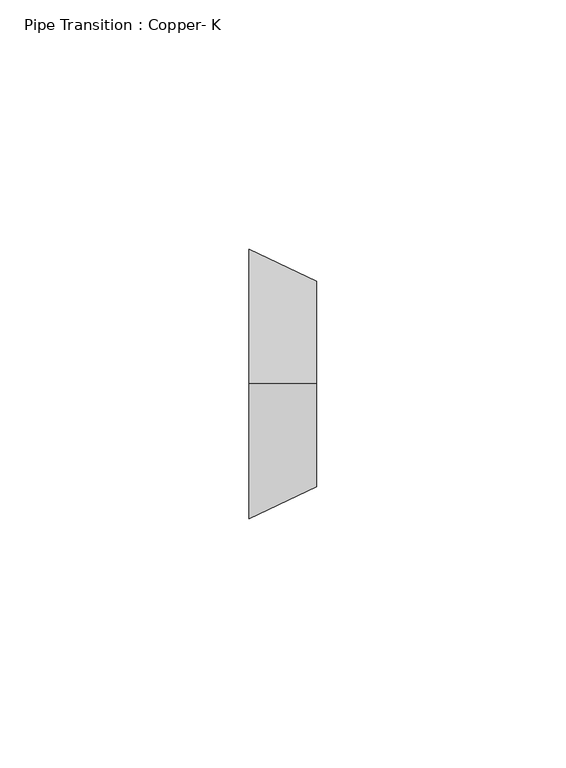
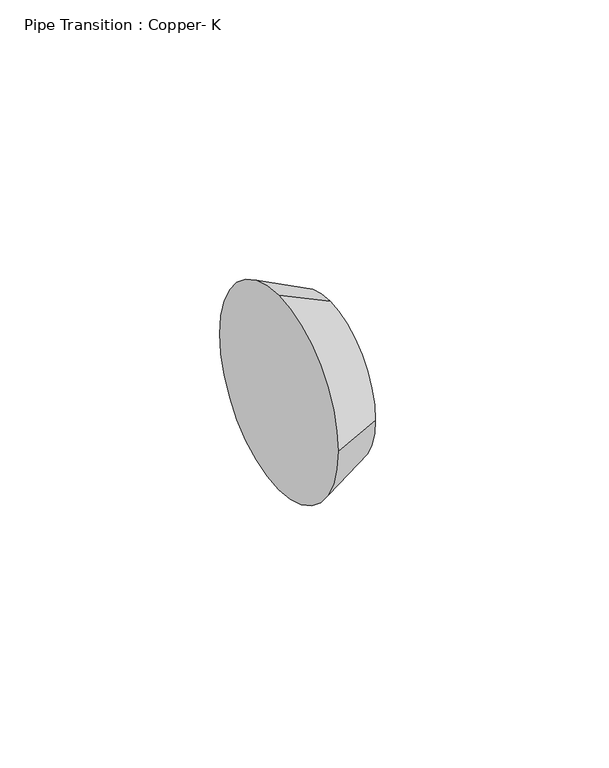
"""IFC4 building model written with IfcOpenShell, lengths in millimetres: pipe fitting geometry, Pipe Transition : Copper- K."""

from ifc_helpers import new_model, si_unit, frame, origin, place, context, project, spatial, circle_curve, source, transform, mapped, element, save
from ifc_brep_helpers import plane_surface, spline_surface, advanced_brep


def pipe_transition_copper_k_ab260ade(model_context):
    return source(origin(), model_context, "Body", "AdvancedBrep", [
        advanced_brep(
        [(13.49375, 0.0, 20.700539), (13.49375, -20.6375, 0.063039), (13.49375, 0.0, -20.574461), (13.49375, 20.6375, 0.063039), (0.0, 0.0, 26.9875), (0.0, 26.9875, 0.0), (0.0, 0.0, -26.9875), (0.0, -26.9875, 0.0)],
        [
            (0, 1, circle_curve(frame((13.49375, 0.0, 0.063039), z_axis=(1.0, 0.0, 0.0), x_axis=(0.0, 1.0, 0.0)), 20.6375)),
            (1, 2, circle_curve(frame((13.49375, 0.0, 0.063039), z_axis=(1.0, 0.0, 0.0), x_axis=(0.0, 1.0, 0.0)), 20.6375)),
            (2, 3, circle_curve(frame((13.49375, 0.0, 0.063039), z_axis=(1.0, 0.0, 0.0), x_axis=(0.0, 1.0, 0.0)), 20.6375)),
            (3, 0, circle_curve(frame((13.49375, 0.0, 0.063039), z_axis=(1.0, 0.0, 0.0), x_axis=(0.0, 1.0, 0.0)), 20.6375)),
            (4, 5, circle_curve(frame((0.0, 0.0, 0.0), z_axis=(-1.0, 0.0, 0.0), x_axis=(0.0, 1.0, 0.0)), 26.9875)),
            (5, 6, circle_curve(frame((0.0, 0.0, 0.0), z_axis=(-1.0, 0.0, 0.0), x_axis=(0.0, 1.0, 0.0)), 26.9875)),
            (6, 7, circle_curve(frame((0.0, 0.0, 0.0), z_axis=(-1.0, 0.0, 0.0), x_axis=(0.0, 1.0, 0.0)), 26.9875)),
            (7, 4, circle_curve(frame((0.0, 0.0, 0.0), z_axis=(-1.0, 0.0, 0.0), x_axis=(0.0, 1.0, 0.0)), 26.9875)),
            (7, 1),
            (0, 4),
            (6, 2),
            (5, 3),
        ],
        [
            plane_surface(frame((13.49375, 0.0, 0.063039), z_axis=(1.0, 0.0, 0.0), x_axis=(0.0, -1.0, 0.0))),
            plane_surface(frame((0.0, 0.0, 0.0), z_axis=(-1.0, 0.0, 0.0), x_axis=(0.0, -1.0, 0.0))),
            spline_surface(2, 1, [[(0.0, 0.0, 26.9875), (13.49375, 0.0, 20.700539)], [(0.0, -26.9875, 26.9875), (13.49375, -20.6375, 20.700539)], [(0.0, -26.9875, 0.0), (13.49375, -20.6375, 0.063039)]], [3, 3], [2, 2], [0.0, 1.0], [0.0, 1.0], weights=[[1.0, 1.0], [0.7071067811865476, 0.7071067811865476], [1.0, 1.0]]),
            spline_surface(2, 1, [[(0.0, -26.9875, 0.0), (13.49375, -20.6375, 0.063039)], [(0.0, -26.9875, -26.9875), (13.49375, -20.6375, -20.574461)], [(0.0, 0.0, -26.9875), (13.49375, 0.0, -20.574461)]], [3, 3], [2, 2], [0.0, 1.0], [0.0, 1.0], weights=[[1.0, 1.0], [0.7071067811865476, 0.7071067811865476], [1.0, 1.0]]),
            spline_surface(2, 1, [[(0.0, 0.0, -26.9875), (13.49375, 0.0, -20.574461)], [(0.0, 26.9875, -26.9875), (13.49375, 20.6375, -20.574461)], [(0.0, 26.9875, 0.0), (13.49375, 20.6375, 0.063039)]], [3, 3], [2, 2], [0.0, 1.0], [0.0, 1.0], weights=[[1.0, 1.0], [0.7071067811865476, 0.7071067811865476], [1.0, 1.0]]),
            spline_surface(2, 1, [[(0.0, 26.9875, 0.0), (13.49375, 20.6375, 0.063039)], [(0.0, 26.9875, 26.9875), (13.49375, 20.6375, 20.700539)], [(0.0, 0.0, 26.9875), (13.49375, 0.0, 20.700539)]], [3, 3], [2, 2], [0.0, 1.0], [0.0, 1.0], weights=[[1.0, 1.0], [0.7071067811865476, 0.7071067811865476], [1.0, 1.0]]),
        ],
        [
            (0, [[1, 2, 3, 4]]),
            (1, [[5, 6, 7, 8]]),
            (2, [[-8, 9, -1, 10]]),
            (3, [[-7, 11, -2, -9]]),
            (4, [[-6, 12, -3, -11]]),
            (5, [[-5, -10, -4, -12]]),
        ],
    ),
        advanced_brep(
        [(13.49375, 0.0, 20.700539), (13.49375, -20.6375, 0.063039), (13.49375, 0.0, -20.574461), (13.49375, 20.6375, 0.063039), (0.0, 0.0, 26.9875), (0.0, 26.9875, 0.0), (0.0, 0.0, -26.9875), (0.0, -26.9875, 0.0)],
        [
            (0, 1, circle_curve(frame((13.49375, 0.0, 0.063039), z_axis=(1.0, 0.0, 0.0), x_axis=(0.0, 1.0, 0.0)), 20.6375)),
            (1, 2, circle_curve(frame((13.49375, 0.0, 0.063039), z_axis=(1.0, 0.0, 0.0), x_axis=(0.0, 1.0, 0.0)), 20.6375)),
            (2, 3, circle_curve(frame((13.49375, 0.0, 0.063039), z_axis=(1.0, 0.0, 0.0), x_axis=(0.0, 1.0, 0.0)), 20.6375)),
            (3, 0, circle_curve(frame((13.49375, 0.0, 0.063039), z_axis=(1.0, 0.0, 0.0), x_axis=(0.0, 1.0, 0.0)), 20.6375)),
            (4, 5, circle_curve(frame((0.0, 0.0, 0.0), z_axis=(-1.0, 0.0, 0.0), x_axis=(0.0, 1.0, 0.0)), 26.9875)),
            (5, 6, circle_curve(frame((0.0, 0.0, 0.0), z_axis=(-1.0, 0.0, 0.0), x_axis=(0.0, 1.0, 0.0)), 26.9875)),
            (6, 7, circle_curve(frame((0.0, 0.0, 0.0), z_axis=(-1.0, 0.0, 0.0), x_axis=(0.0, 1.0, 0.0)), 26.9875)),
            (7, 4, circle_curve(frame((0.0, 0.0, 0.0), z_axis=(-1.0, 0.0, 0.0), x_axis=(0.0, 1.0, 0.0)), 26.9875)),
            (7, 1),
            (0, 4),
            (6, 2),
            (5, 3),
        ],
        [
            plane_surface(frame((13.49375, 0.0, 0.063039), z_axis=(1.0, 0.0, 0.0), x_axis=(0.0, -1.0, 0.0))),
            plane_surface(frame((0.0, 0.0, 0.0), z_axis=(-1.0, 0.0, 0.0), x_axis=(0.0, -1.0, 0.0))),
            spline_surface(2, 1, [[(0.0, 0.0, 26.9875), (13.49375, 0.0, 20.700539)], [(0.0, -26.9875, 26.9875), (13.49375, -20.6375, 20.700539)], [(0.0, -26.9875, 0.0), (13.49375, -20.6375, 0.063039)]], [3, 3], [2, 2], [0.0, 1.0], [0.0, 1.0], weights=[[1.0, 1.0], [0.7071067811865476, 0.7071067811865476], [1.0, 1.0]]),
            spline_surface(2, 1, [[(0.0, -26.9875, 0.0), (13.49375, -20.6375, 0.063039)], [(0.0, -26.9875, -26.9875), (13.49375, -20.6375, -20.574461)], [(0.0, 0.0, -26.9875), (13.49375, 0.0, -20.574461)]], [3, 3], [2, 2], [0.0, 1.0], [0.0, 1.0], weights=[[1.0, 1.0], [0.7071067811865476, 0.7071067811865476], [1.0, 1.0]]),
            spline_surface(2, 1, [[(0.0, 0.0, -26.9875), (13.49375, 0.0, -20.574461)], [(0.0, 26.9875, -26.9875), (13.49375, 20.6375, -20.574461)], [(0.0, 26.9875, 0.0), (13.49375, 20.6375, 0.063039)]], [3, 3], [2, 2], [0.0, 1.0], [0.0, 1.0], weights=[[1.0, 1.0], [0.7071067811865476, 0.7071067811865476], [1.0, 1.0]]),
            spline_surface(2, 1, [[(0.0, 26.9875, 0.0), (13.49375, 20.6375, 0.063039)], [(0.0, 26.9875, 26.9875), (13.49375, 20.6375, 20.700539)], [(0.0, 0.0, 26.9875), (13.49375, 0.0, 20.700539)]], [3, 3], [2, 2], [0.0, 1.0], [0.0, 1.0], weights=[[1.0, 1.0], [0.7071067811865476, 0.7071067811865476], [1.0, 1.0]]),
        ],
        [
            (0, [[1, 2, 3, 4]]),
            (1, [[5, 6, 7, 8]]),
            (2, [[-8, 9, -1, 10]]),
            (3, [[-7, 11, -2, -9]]),
            (4, [[-6, 12, -3, -11]]),
            (5, [[-5, -10, -4, -12]]),
        ],
    ),
    ])


if __name__ == "__main__":
    model = new_model("IFC4")
    model_context = context("Model", 3, world=origin())
    ifc_project = project(units=[si_unit("LENGTHUNIT", "METRE", prefix="MILLI")], contexts=[model_context])
    site = spatial("IfcSite", under=ifc_project)
    building = spatial("IfcBuilding", under=site)
    placement = place(None, origin())
    pipe_transition_copper_k_shape = pipe_transition_copper_k_ab260ade(model_context)
    element("IfcPipeFitting", 1, ObjectType="Pipe Transition : Copper- K", at=placement, inside=building, context=model_context, shape_type="MappedRepresentation", body=[
        mapped(pipe_transition_copper_k_shape, transform((0.0, 0.0, 0.0), x_axis=(1.0, 0.0, 0.0), y_axis=(0.0, 1.0, 0.0), z_axis=(0.0, 0.0, 1.0))),
    ])
    save(model, "model.ifc")
